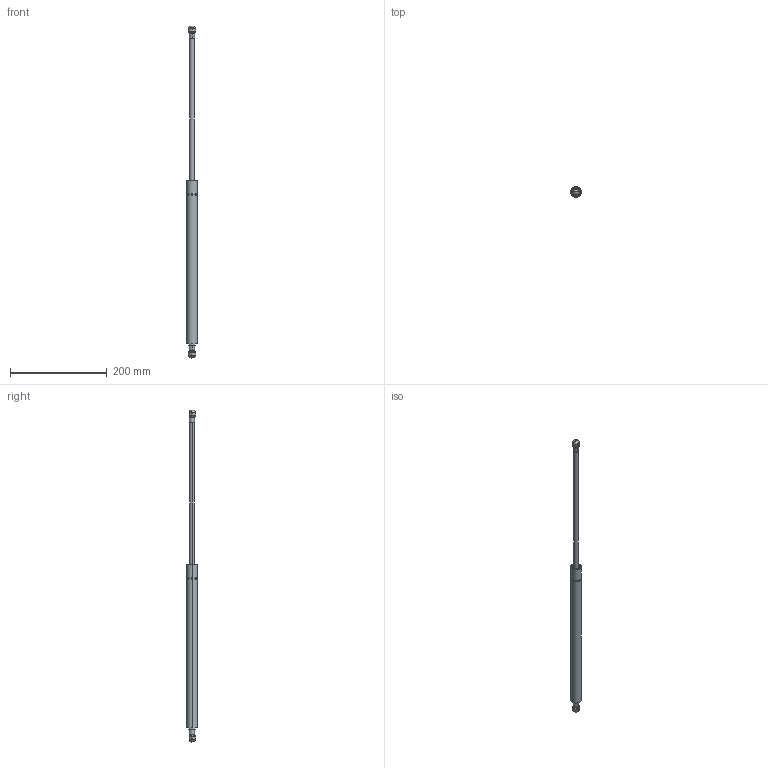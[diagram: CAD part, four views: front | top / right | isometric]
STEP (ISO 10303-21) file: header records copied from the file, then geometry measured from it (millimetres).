
FILE_DESCRIPTION (( 'STEP AP214' ), '1' );
FILE_NAME ('GS10-1025MD10.STEP', '2011-03-30T20:02:25', ( 'user' ), ( '' ), 'SwSTEP 2.0', 'SolidWorks 2011', '' );
FILE_SCHEMA (( 'AUTOMOTIVE_DESIGN' ));
Length unit declared in the file: millimetre
Products named in the file (5): socket; GS10-1025MD10; GS10-1025MD10-SHAFT; GS10-1025MD10-TUBE; GS-1025MD10-NC
Assembly tree (5 placements, depth 3):
  GS10-1025MD10
    GS-1025MD10-NC
      GS10-1025MD10-SHAFT
      GS10-1025MD10-TUBE
    socket  x2
Bounding box: 22 x 22 x 685.5 mm (x, y, z)
Volume: 132706.7 mm3; surface area: 46665.5 mm2
Topology: 4 solids, 4 shells, 181 faces, 500 edges, 330 vertices
Faces by surface type: plane 77, cylinder 68, torus 16, sphere 16, cone 4
Entity records: 4503 total; most frequent: CARTESIAN_POINT 882, DIRECTION 580, ORIENTED_EDGE 540, EDGE_CURVE 270, AXIS2_PLACEMENT_3D 238, VERTEX_POINT 177, CIRCLE 126, EDGE_LOOP 109
